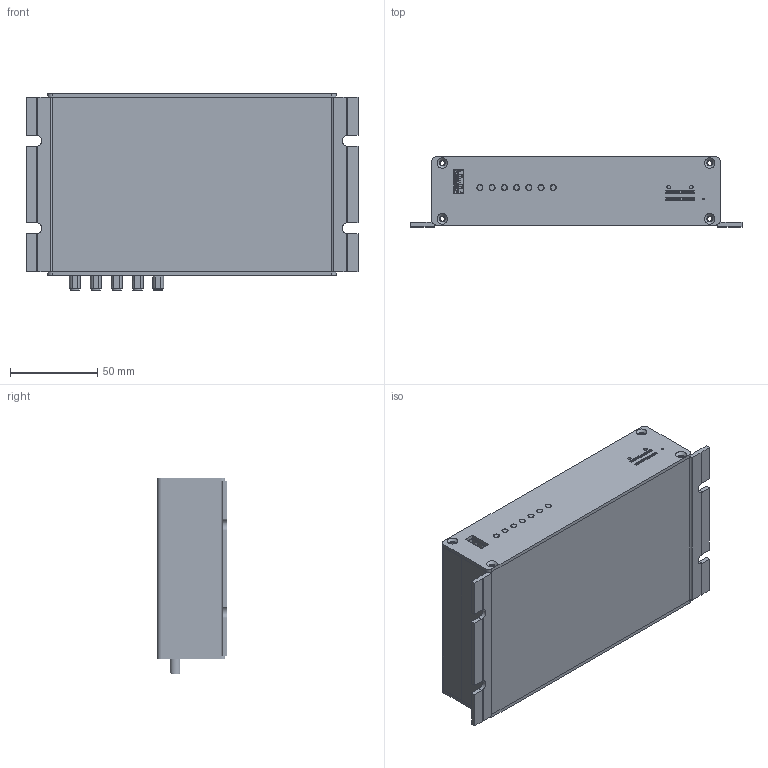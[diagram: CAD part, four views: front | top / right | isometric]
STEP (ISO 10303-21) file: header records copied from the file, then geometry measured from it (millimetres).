
FILE_DESCRIPTION(/* description */ ('Alibre Inc.'),/* implementation_level */ '2;1');
FILE_NAME(/* name */ 'export0',/* time_stamp */ '2012-10-03T11:08:19+02:00',/* author */ (''),/* organization */ (''),/* preprocessor_version */ 'ST-DEVELOPER v12',/* originating_system */ 'Alibre',/* authorisation */ '');
FILE_SCHEMA (('AUTOMOTIVE_DESIGN'));
Length unit declared in the file: centimetre
Bounding box: 190 x 39.96 x 112.58 mm (x, y, z)
Volume: 239675.6 mm3; surface area: 223774.6 mm2
Topology: 360 solids, 360 shells, 10364 faces, 27941 edges, 18361 vertices
Faces by surface type: plane 8277, cylinder 1888, cone 189, bspline 10
Full cylindrical faces by diameter (mm): 0.3 x4, 0.889 x60, 0.92 x5, 1 x39, 1.1 x2, 1.2 x20, 1.3 x2, 1.4 x2, 1.5 x17, 1.6 x10, 2.013 x2, 2.1 x5, 2.459 x2, 3 x7, 3.2 x13, 3.3 x6, 3.5 x7, 4.6 x5, 4.7 x5, 5 x5, 5.3 x5, 6 x1, 6.3 x5
Entity records: 169936 total; most frequent: CARTESIAN_POINT 30453, ORIENTED_EDGE 28948, DIRECTION 24893, EDGE_CURVE 14474, VECTOR 12004, LINE 12004, VERTEX_POINT 9471, AXIS2_PLACEMENT_3D 8412
